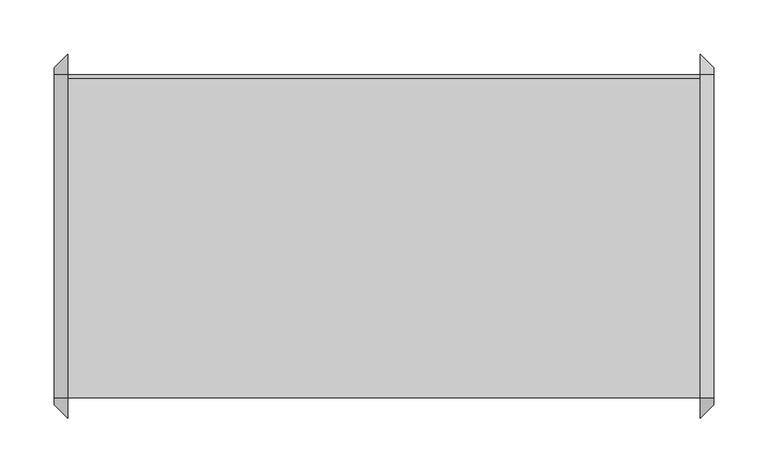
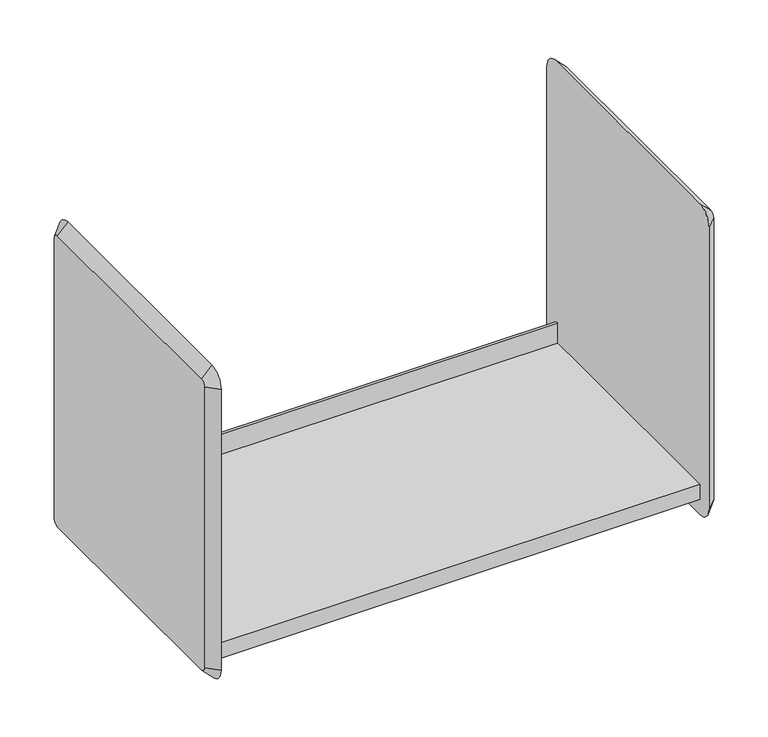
"""IFC4 building model written with IfcOpenShell, lengths in millimetres: furniture geometry, HermanMiller_CoStruc_B-StyleShelf : 15-1/2H x 13D x 24W."""

from ifc_helpers import new_model, si_unit, frame, origin, place, context, project, spatial, polyline, circle_curve, outline, extrude, source, transform, mapped, element, save
from ifc_brep_helpers import plane_surface, revolved_surface, advanced_brep


def furniture_ede18b92(model_context):
    return source(origin(), model_context, "Body", "SolidModel", [
        extrude(outline(polyline([(-136.525, 1676.4), (158.75, 1676.4), (158.75, 1701.8), (161.925, 1701.8), (161.925, 1657.3152313), (-136.525, 1657.3152313), (-136.525, 1676.4)])), frame((-416.0420045, 0.0, 0.0), z_axis=(1.0, 0.0, 0.0), x_axis=(0.0, 1.0, 0.0)), (0.0, 0.0, 1.0), 584.2),
        advanced_brep(
        [(168.1579955, -155.575, 2012.95), (168.1579955, -155.575, 1657.35), (180.8579955, -142.875, 1657.35), (180.8579955, -142.875, 2012.95), (180.8579955, 161.925, 2019.3), (180.8579955, -136.525, 2019.3), (180.8579955, -136.525, 1651.0), (180.8579955, 161.925, 1651.0), (180.8579955, 168.275, 1657.35), (180.8579955, 168.275, 2012.95), (168.1579955, -136.525, 1638.3), (168.1579955, 161.925, 1638.3), (168.1579955, 180.975, 1657.35), (168.1579955, 180.975, 2012.95), (168.1579955, 161.925, 2032.0), (168.1579955, -136.525, 2032.0)],
        [
            (0, 1),
            (1, 2),
            (2, 3),
            (3, 0),
            (4, 5),
            (5, 3, circle_curve(frame((180.8579955, -136.525, 2012.95), z_axis=(1.0, 0.0, 0.0), x_axis=(0.0, 0.0, 1.0)), 6.35)),
            (2, 6, circle_curve(frame((180.8579955, -136.525, 1657.35), z_axis=(1.0, 0.0, 0.0), x_axis=(0.0, -1.0, 0.0)), 6.35)),
            (6, 7),
            (7, 8, circle_curve(frame((180.8579955, 161.925, 1657.35), z_axis=(1.0, 0.0, 0.0), x_axis=(0.0, 0.0, -1.0)), 6.35)),
            (8, 9),
            (9, 4, circle_curve(frame((180.8579955, 161.925, 2012.95), z_axis=(1.0, 0.0, 0.0), x_axis=(0.0, 1.0, 0.0)), 6.35)),
            (1, 10, circle_curve(frame((168.1579955, -136.525, 1657.35), z_axis=(1.0, 0.0, 0.0), x_axis=(0.0, -1.0, 0.0)), 19.05)),
            (10, 6),
            (10, 11),
            (11, 7),
            (11, 12, circle_curve(frame((168.1579955, 161.925, 1657.35), z_axis=(1.0, 0.0, 0.0), x_axis=(0.0, 0.0, -1.0)), 19.05)),
            (12, 8),
            (12, 13),
            (13, 9),
            (14, 13, circle_curve(frame((168.1579955, 161.925, 2012.95), z_axis=(-1.0, 0.0, 0.0), x_axis=(0.0, 1.0, 0.0)), 19.05)),
            (0, 15, circle_curve(frame((168.1579955, -136.525, 2012.95), z_axis=(-1.0, 0.0, 0.0), x_axis=(0.0, 0.0, 1.0)), 19.05)),
            (15, 14),
            (15, 5),
            (4, 14),
        ],
        [
            plane_surface(frame((168.1579955, -155.575, 1835.15), z_axis=(0.7071067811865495, -0.7071067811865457, 0.0), x_axis=(0.0, 0.0, -1.0))),
            plane_surface(frame((180.8579955, 12.7, 1835.15), z_axis=(1.0, 0.0, 0.0), x_axis=(0.0, -1.0, 0.0))),
            revolved_surface(polyline([(180.8579955, -142.87500000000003, 1657.35), (168.1579955, -155.575, 1657.35)]), (187.2079955, -136.525, 1657.35), (-1.0, 0.0, 0.0)),
            plane_surface(frame((168.1579955, 12.7, 1638.3), z_axis=(0.70710678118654, 0.0, -0.707106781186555), x_axis=(0.0, 1.0, 0.0))),
            revolved_surface(polyline([(180.8579955, 161.925, 1651.0), (168.1579955, 161.925, 1638.3)]), (187.2079955, 161.925, 1657.35), (-1.0, 0.0, 0.0)),
            plane_surface(frame((168.1579955, 180.975, 1835.15), z_axis=(0.7071067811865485, 0.7071067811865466, 0.0), x_axis=(0.0, 0.0, 1.0))),
            plane_surface(frame((168.1579955, 12.7, 1835.15), z_axis=(-1.0, 0.0, 0.0), x_axis=(0.0, -1.0, 0.0))),
            plane_surface(frame((168.1579955, 12.7, 2032.0), z_axis=(0.7071067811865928, 0.0, 0.7071067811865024), x_axis=(0.0, -1.0, 0.0))),
            revolved_surface(polyline([(180.8579955, -136.525, 2019.3), (168.1579955, -136.525, 2032.0)]), (187.2079955, -136.525, 2012.95), (-1.0, 0.0, 0.0)),
            revolved_surface(polyline([(180.8579955, 168.27500000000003, 2012.95), (168.1579955, 180.975, 2012.95)]), (187.2079955, 161.925, 2012.95), (-1.0, 0.0, 0.0)),
        ],
        [
            (0, [[1, 2, 3, 4]]),
            (1, [[5, 6, -3, 7, 8, 9, 10, 11]]),
            (2, [[12, 13, -7, -2]]),
            (3, [[14, 15, -8, -13]]),
            (4, [[16, 17, -9, -15]]),
            (5, [[18, 19, -10, -17]]),
            (6, [[20, -18, -16, -14, -12, -1, 21, 22]]),
            (7, [[-22, 23, -5, 24]]),
            (8, [[-21, -4, -6, -23]]),
            (9, [[-20, -24, -11, -19]]),
        ],
    ),
        advanced_brep(
        [(-416.0420045, 180.975, 2012.95), (-416.0420045, 180.975, 1657.35), (-428.7420045, 168.275, 1657.35), (-428.7420045, 168.275, 2012.95), (-428.7420045, -136.525, 2019.3), (-428.7420045, 161.925, 2019.3), (-428.7420045, 161.925, 1651.0), (-428.7420045, -136.525, 1651.0), (-428.7420045, -142.875, 1657.35), (-428.7420045, -142.875, 2012.95), (-416.0420045, 161.925, 1638.3), (-416.0420045, -136.525, 1638.3), (-416.0420045, -155.575, 1657.35), (-416.0420045, -155.575, 2012.95), (-416.0420045, -136.525, 2032.0), (-416.0420045, 161.925, 2032.0)],
        [
            (0, 1),
            (1, 2),
            (2, 3),
            (3, 0),
            (4, 5),
            (5, 3, circle_curve(frame((-428.7420045, 161.925, 2012.95), z_axis=(-1.0, 4.822808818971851e-12, 2.344791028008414e-12), x_axis=(2.3447760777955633e-12, 0.0, 1.0)), 6.35)),
            (2, 6, circle_curve(frame((-428.7420045, 161.925, 1657.35), z_axis=(-1.0, 1.0604850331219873e-12, 7.204903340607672e-12), x_axis=(1.060440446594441e-12, 1.0, 0.0)), 6.35)),
            (6, 7),
            (7, 8, circle_curve(frame((-428.7420045, -136.525, 1657.35), z_axis=(-1.0, 1.4002132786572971e-12, 0.0), x_axis=(0.0, 0.0, -1.0)), 6.35)),
            (8, 9),
            (9, 4, circle_curve(frame((-428.7420045, -136.525, 2012.95), z_axis=(-1.0, 0.0, 3.069544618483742e-12), x_axis=(0.0, -1.0, 0.0)), 6.35)),
            (1, 10, circle_curve(frame((-416.0420045, 161.925, 1657.35), z_axis=(-1.0, 1.0604850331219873e-12, 7.204903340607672e-12), x_axis=(1.060440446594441e-12, 1.0, 0.0)), 19.05)),
            (10, 6),
            (10, 11),
            (11, 7),
            (11, 12, circle_curve(frame((-416.0420045, -136.525, 1657.35), z_axis=(-1.0, 1.4002132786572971e-12, 0.0), x_axis=(0.0, 0.0, -1.0)), 19.05)),
            (12, 8),
            (12, 13),
            (13, 9),
            (14, 13, circle_curve(frame((-416.0420045, -136.525, 2012.95), z_axis=(1.0, 0.0, -3.069544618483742e-12), x_axis=(0.0, -1.0, 0.0)), 19.05)),
            (0, 15, circle_curve(frame((-416.0420045, 161.925, 2012.95), z_axis=(1.0, -4.822808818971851e-12, -2.344791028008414e-12), x_axis=(2.3447760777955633e-12, 0.0, 1.0)), 19.05)),
            (15, 14),
            (15, 5),
            (4, 14),
        ],
        [
            plane_surface(frame((-416.0420045, 180.975, 1835.15), z_axis=(-0.7071067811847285, 0.7071067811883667, 0.0), x_axis=(0.0, 0.0, -1.0))),
            plane_surface(frame((-428.7420045, 12.7, 1835.15), z_axis=(-1.0, 0.0, 0.0), x_axis=(0.0, -1.0, 0.0))),
            revolved_surface(polyline([(-428.7420045, 168.27499999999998, 1657.35), (-416.04200449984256, 180.97500000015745, 1657.35)]), (-435.0920045, 161.925, 1657.35), (1.0, -1.0604850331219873e-12, -7.204903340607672e-12)),
            plane_surface(frame((-416.0420045, 12.7, 1638.3), z_axis=(-0.7071067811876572, 0.0, -0.7071067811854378), x_axis=(0.0, -1.0, 0.0))),
            revolved_surface(polyline([(-428.7420045, -136.525, 1651.0), (-416.04200449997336, -136.525, 1638.2999999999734)]), (-435.0920045, -136.525, 1657.35), (1.0, -1.4002132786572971e-12, 0.0)),
            plane_surface(frame((-416.0420045, -155.575, 1835.15), z_axis=(-0.7071067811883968, -0.7071067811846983, 0.0), x_axis=(0.0, 0.0, 1.0))),
            plane_surface(frame((-416.0420045, 12.7, 1835.15), z_axis=(1.0, 0.0, 0.0), x_axis=(0.0, -1.0, 0.0))),
            plane_surface(frame((-416.0420045, 12.7, 2032.0), z_axis=(-0.7071067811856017, 0.0, 0.7071067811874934), x_axis=(0.0, 1.0, 0.0))),
            revolved_surface(polyline([(-428.74200450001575, 161.925, 2019.2999999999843), (-416.04200449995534, 161.925, 2032.0000000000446)]), (-435.0920045, 161.925, 2012.95), (1.0, -4.822808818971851e-12, -2.344791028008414e-12)),
            revolved_surface(polyline([(-428.7420045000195, -142.8749999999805, 2012.95), (-416.0420045, -155.575, 2012.95)]), (-435.0920045, -136.525, 2012.95), (1.0, 0.0, -3.069544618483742e-12)),
        ],
        [
            (0, [[1, 2, 3, 4]]),
            (1, [[5, 6, -3, 7, 8, 9, 10, 11]]),
            (2, [[12, 13, -7, -2]]),
            (3, [[14, 15, -8, -13]]),
            (4, [[16, 17, -9, -15]]),
            (5, [[18, 19, -10, -17]]),
            (6, [[20, -18, -16, -14, -12, -1, 21, 22]]),
            (7, [[-22, 23, -5, 24]]),
            (8, [[-21, -4, -6, -23]]),
            (9, [[-20, -24, -11, -19]]),
        ],
    ),
    ])


if __name__ == "__main__":
    model = new_model("IFC4")
    model_context = context("Model", 3, world=origin())
    ifc_project = project(units=[si_unit("LENGTHUNIT", "METRE", prefix="MILLI")], contexts=[model_context])
    site = spatial("IfcSite", under=ifc_project)
    building = spatial("IfcBuilding", under=site)
    placement = place(None, origin())
    furniture_shape = furniture_ede18b92(model_context)
    element("IfcFurniture", 1, ObjectType="HermanMiller_CoStruc_B-StyleShelf : 15-1/2H x 13D x 24W", at=placement, inside=building, context=model_context, shape_type="MappedRepresentation", body=[
        mapped(furniture_shape, transform((0.0, 0.0, 0.0), x_axis=(1.0, 0.0, 0.0), y_axis=(0.0, 1.0, 0.0), z_axis=(0.0, 0.0, 1.0))),
    ])
    save(model, "model.ifc")
